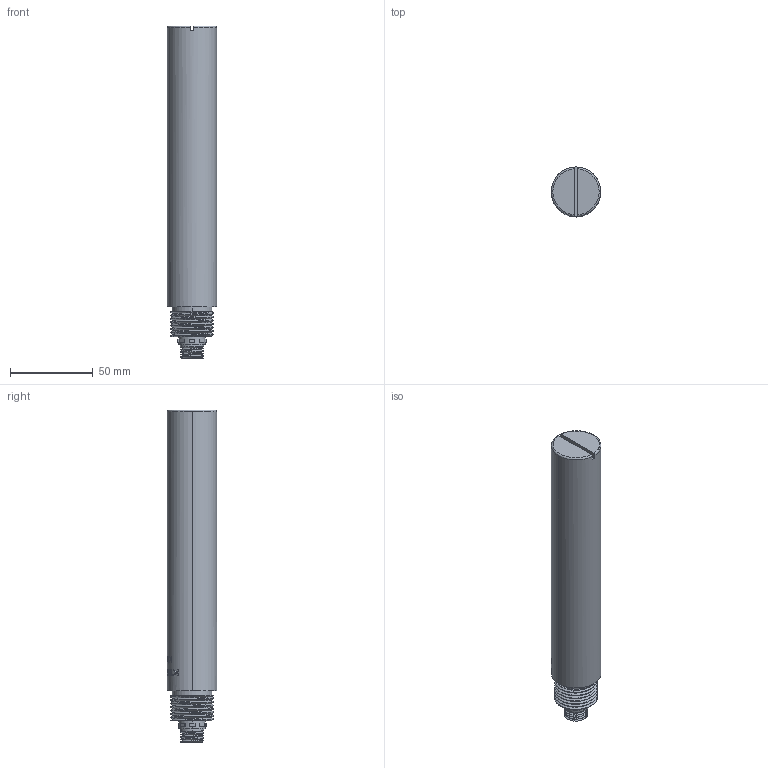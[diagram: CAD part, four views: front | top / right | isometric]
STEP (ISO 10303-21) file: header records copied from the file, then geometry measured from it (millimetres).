
FILE_DESCRIPTION((''),'2;1');
FILE_NAME('ASM0001_ASM','2025-12-26T17:56:16',('28740194'),(''),'CREO PARAMETRIC BY PTC INC, 2024063','CREO PARAMETRIC BY PTC INC, 2024063','');
FILE_SCHEMA(('CONFIG_CONTROL_DESIGN'));
Length unit declared in the file: millimetre
Products named in the file (5): KWS-960C; 0001; 222000; 260_ASM; ASM0001_ASM
Assembly tree (4 placements, depth 3):
  ASM0001_ASM
    KWS-960C
    260_ASM
      0001
      222000
Bounding box: 30 x 30.21 x 201 mm (x, y, z)
Volume: 8712.2 mm3; surface area: 22418.3 mm2
Topology: 2 solids, 5 shells, 553 faces, 1556 edges, 1039 vertices
Faces by surface type: bspline 436, plane 58, cylinder 57, torus 2
Entity records: 26922 total; most frequent: CARTESIAN_POINT 15864, ORIENTED_EDGE 3084, EDGE_CURVE 1554, B_SPLINE_CURVE_WITH_KNOTS 1128, VERTEX_POINT 1038, DIRECTION 887, EDGE_LOOP 583, FACE_OUTER_BOUND 553
